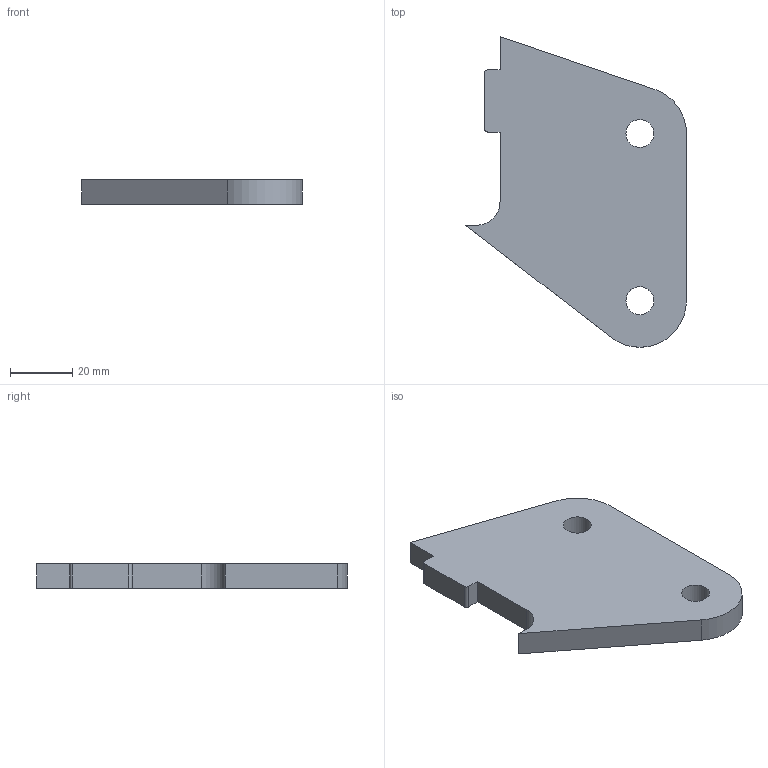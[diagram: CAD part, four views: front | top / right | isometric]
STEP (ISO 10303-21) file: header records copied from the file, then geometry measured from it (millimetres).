
FILE_DESCRIPTION(/* description */ (''),/* implementation_level */ '2;1');
FILE_NAME(/* name */ 'Pos156-Plaatwerk D= 8-S235JRG2-3st',/* time_stamp */ '2024-08-06T13:37:45+02:00',/* author */ (''),/* organization */ (''),/* preprocessor_version */ 'ST-DEVELOPER v16.5',/* originating_system */ 'HiCAD 2024 2901.2 Build 361',/* authorisation */ '');
FILE_SCHEMA (('AUTOMOTIVE_DESIGN { 1 0 10303 214 1 1 1 1 }'));
Length unit declared in the file: millimetre
Products named in the file (1): Pos156-Plaatwerk D= 8-S235JRG2-3st
Bounding box: 71.12 x 99.96 x 8 mm (x, y, z)
Volume: 37854.7 mm3; surface area: 12280 mm2
Topology: 1 solids, 1 shells, 18 faces, 50 edges, 34 vertices
Faces by surface type: plane 11, cylinder 7
Full cylindrical faces by diameter (mm): 9 x2
Entity records: 1042 total; most frequent: DIRECTION 96, CARTESIAN_POINT 96, PRESENTATION_STYLE_ASSIGNMENT 93, COLOUR_RGB 93, DRAUGHTING_PRE_DEFINED_CURVE_FONT 92, CURVE_STYLE 92, OVER_RIDING_STYLED_ITEM 92, ORIENTED_EDGE 92
